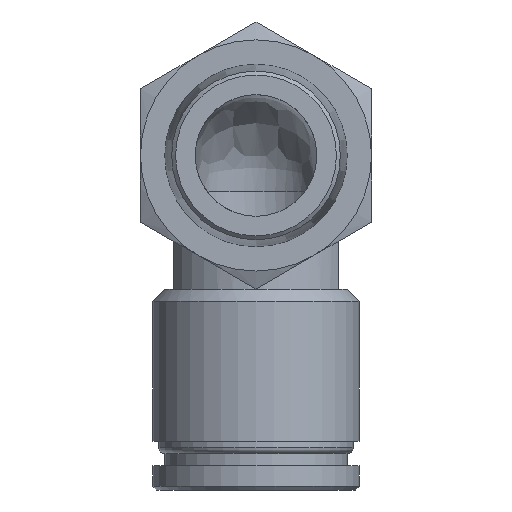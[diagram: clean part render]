
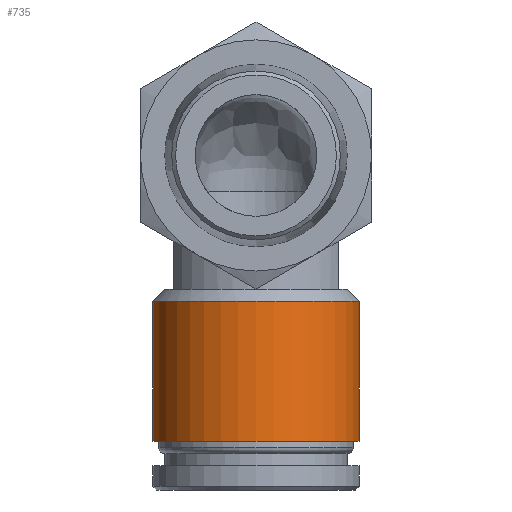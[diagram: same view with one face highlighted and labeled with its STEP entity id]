
A CAD part, front view. The second image highlights one B-rep face of the part: STEP entity #735.
In plain terms, the highlighted cylindrical face has radius 8.5 mm (diameter 17 mm), a full revolution.
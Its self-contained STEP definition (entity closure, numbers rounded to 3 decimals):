
#25=CYLINDRICAL_SURFACE('',#849,8.5);
#120=FACE_OUTER_BOUND('',#177,.T.);
#177=EDGE_LOOP('',(#626,#627,#628,#629));
#207=LINE('',#1326,#237);
#237=VECTOR('',#1051,8.5);
#286=CIRCLE('',#842,8.5);
#289=CIRCLE('',#848,8.5);
#350=VERTEX_POINT('',#1313);
#352=VERTEX_POINT('',#1323);
#443=EDGE_CURVE('',#350,#350,#286,.T.);
#447=EDGE_CURVE('',#352,#352,#289,.T.);
#448=EDGE_CURVE('',#350,#352,#207,.T.);
#626=ORIENTED_EDGE('',*,*,#443,.F.);
#627=ORIENTED_EDGE('',*,*,#448,.T.);
#628=ORIENTED_EDGE('',*,*,#447,.T.);
#629=ORIENTED_EDGE('',*,*,#448,.F.);
#735=ADVANCED_FACE('',(#120),#25,.T.);
#842=AXIS2_PLACEMENT_3D('',#1315,#1034,#1035);
#848=AXIS2_PLACEMENT_3D('',#1324,#1047,#1048);
#849=AXIS2_PLACEMENT_3D('',#1325,#1049,#1050);
#1034=DIRECTION('center_axis',(0.,0.,1.));
#1035=DIRECTION('ref_axis',(1.,0.,0.));
#1047=DIRECTION('center_axis',(0.,0.,1.));
#1048=DIRECTION('ref_axis',(1.,0.,0.));
#1049=DIRECTION('center_axis',(0.,0.,1.));
#1050=DIRECTION('ref_axis',(0.,-1.,0.));
#1051=DIRECTION('',(0.,0.,-1.));
#1313=CARTESIAN_POINT('',(0.,20.9,-12.));
#1315=CARTESIAN_POINT('Origin',(0.,12.4,-12.));
#1323=CARTESIAN_POINT('',(0.,20.9,-23.5));
#1324=CARTESIAN_POINT('Origin',(0.,12.4,-23.5));
#1325=CARTESIAN_POINT('Origin',(0.,12.4,-17.75));
#1326=CARTESIAN_POINT('',(0.,20.9,-17.75));
